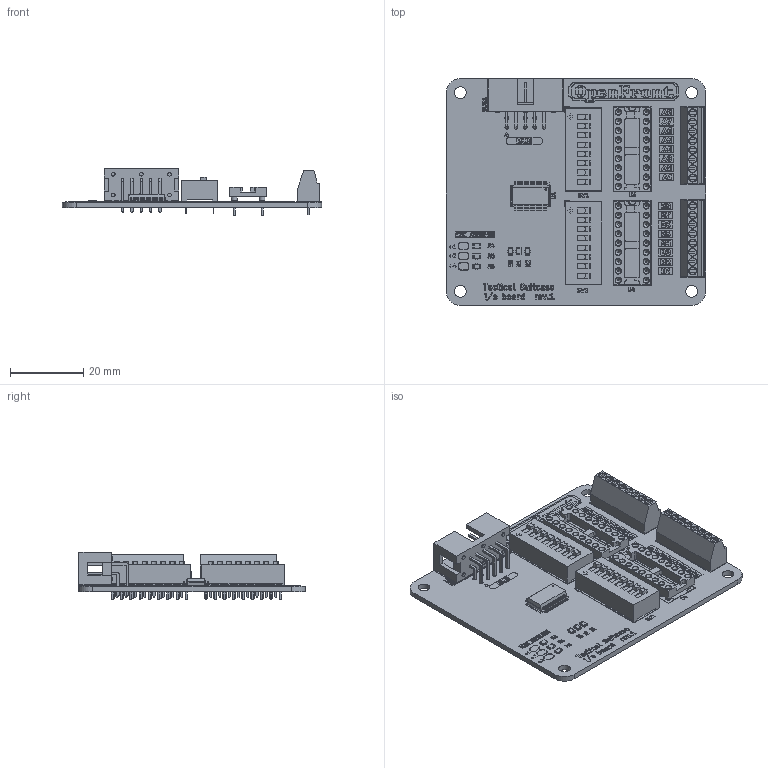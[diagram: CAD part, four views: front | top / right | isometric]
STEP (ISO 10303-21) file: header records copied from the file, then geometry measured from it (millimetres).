
FILE_DESCRIPTION(('KiCad electronic assembly'),'2;1');
FILE_NAME('moduleboard.step','2026-02-03T15:20:26',('Pcbnew'),('Kicad'), 'Open CASCADE STEP processor 7.8','KiCad to STEP converter','Unknown' );
FILE_SCHEMA(('AUTOMOTIVE_DESIGN { 1 0 10303 214 1 1 1 1 }'));
Length unit declared in the file: millimetre
Products named in the file (9): moduleboard 1; SW_DIP_SPSTx08_Slide_9.78x22.5mm_W7.62mm_P2.54mm; R_0805_2012Metric; DIP-18_W7.62mm_Socket; TerminalBlock_Phoenix_MPT-0,5-8-2.54_1x08_P2.54mm_Horizontal; IDC-Header_2x05_P2.54mm_Horizontal; SSOP-28_5.3x10.2mm_P0.65mm; moduleboard_layout_silkscreen; moduleboard_layout_PCB
Assembly tree (16 placements, depth 2):
  moduleboard 1
    SW_DIP_SPSTx08_Slide_9.78x22.5mm_W7.62mm_P2.54mm  x2
    R_0805_2012Metric  x6
    DIP-18_W7.62mm_Socket  x2
    TerminalBlock_Phoenix_MPT-0,5-8-2.54_1x08_P2.54mm_Horizontal  x2
    IDC-Header_2x05_P2.54mm_Horizontal
    SSOP-28_5.3x10.2mm_P0.65mm
    moduleboard_layout_silkscreen
    moduleboard_layout_PCB
Bounding box: 70.87 x 61.98 x 12.88 mm (x, y, z)
Volume: 12262.9 mm3; surface area: 18670.5 mm2
Topology: 15 solids, 198 shells, 2729 faces, 10663 edges, 8460 vertices
Faces by surface type: plane 1991, cylinder 514, bspline 116, cone 108
Full cylindrical faces by diameter (mm): 0.5 x1, 0.508 x72, 0.8 x68, 1 x16, 1.1 x16, 1.524 x36, 1.724 x36, 2 x16, 2.2 x16, 3.2 x4
Entity records: 99214 total; most frequent: CARTESIAN_POINT 17784, DIRECTION 13425, ORIENTED_EDGE 12542, EDGE_CURVE 8543, VERTEX_POINT 7096, LINE 7023, VECTOR 7023, AXIS2_PLACEMENT_3D 3201
